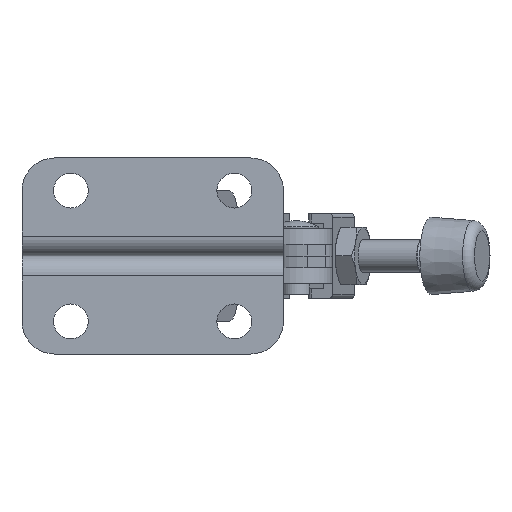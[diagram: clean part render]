
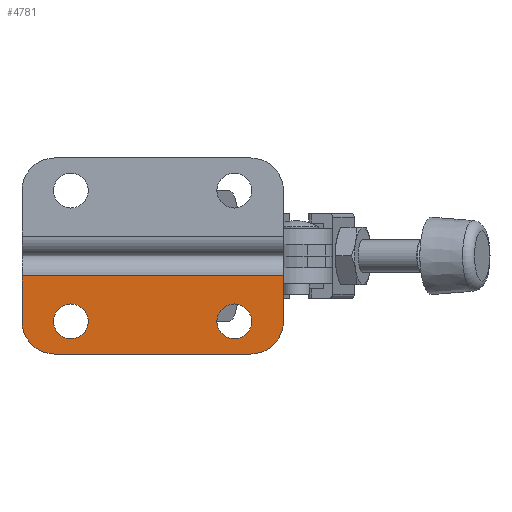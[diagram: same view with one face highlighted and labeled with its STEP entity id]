
A CAD part, front view. The second image highlights one B-rep face of the part: STEP entity #4781.
In plain terms, the highlighted planar face has unit normal (0, -1, 0).
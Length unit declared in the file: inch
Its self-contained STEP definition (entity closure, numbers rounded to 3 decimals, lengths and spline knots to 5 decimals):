
#243=PLANE('',#5238);
#441=LINE('',#7647,#751);
#454=LINE('',#7690,#764);
#455=LINE('',#7691,#765);
#456=LINE('',#7692,#766);
#751=VECTOR('',#6167,1.99954);
#764=VECTOR('',#6206,0.3473);
#765=VECTOR('',#6207,1.49954);
#766=VECTOR('',#6208,0.3473);
#999=FACE_BOUND('',#1539,.T.);
#1000=FACE_BOUND('',#1540,.T.);
#1179=FACE_OUTER_BOUND('',#1538,.T.);
#1538=EDGE_LOOP('',(#3699,#3700,#3701,#3702,#3703,#3704));
#1539=EDGE_LOOP('',(#3705));
#1540=EDGE_LOOP('',(#3706));
#1911=CIRCLE('',#5210,0.25);
#1914=CIRCLE('',#5214,0.25);
#1916=CIRCLE('',#5217,0.133);
#1918=CIRCLE('',#5220,0.133);
#2250=VERTEX_POINT('',#7606);
#2251=VERTEX_POINT('',#7607);
#2256=VERTEX_POINT('',#7618);
#2257=VERTEX_POINT('',#7620);
#2259=VERTEX_POINT('',#7626);
#2261=VERTEX_POINT('',#7631);
#2267=VERTEX_POINT('',#7644);
#2268=VERTEX_POINT('',#7646);
#2777=EDGE_CURVE('',#2250,#2251,#1911,.T.);
#2783=EDGE_CURVE('',#2256,#2257,#1914,.T.);
#2786=EDGE_CURVE('',#2259,#2259,#1916,.T.);
#2788=EDGE_CURVE('',#2261,#2261,#1918,.T.);
#2794=EDGE_CURVE('',#2267,#2268,#441,.T.);
#2816=EDGE_CURVE('',#2267,#2251,#454,.T.);
#2817=EDGE_CURVE('',#2250,#2257,#455,.T.);
#2818=EDGE_CURVE('',#2256,#2268,#456,.T.);
#3699=ORIENTED_EDGE('',*,*,#2794,.F.);
#3700=ORIENTED_EDGE('',*,*,#2816,.T.);
#3701=ORIENTED_EDGE('',*,*,#2777,.F.);
#3702=ORIENTED_EDGE('',*,*,#2817,.T.);
#3703=ORIENTED_EDGE('',*,*,#2783,.F.);
#3704=ORIENTED_EDGE('',*,*,#2818,.T.);
#3705=ORIENTED_EDGE('',*,*,#2786,.T.);
#3706=ORIENTED_EDGE('',*,*,#2788,.T.);
#4781=ADVANCED_FACE('',(#1179,#999,#1000),#243,.T.);
#5210=AXIS2_PLACEMENT_3D('',#7608,#6129,#6130);
#5214=AXIS2_PLACEMENT_3D('',#7621,#6140,#6141);
#5217=AXIS2_PLACEMENT_3D('',#7627,#6147,#6148);
#5220=AXIS2_PLACEMENT_3D('',#7632,#6153,#6154);
#5238=AXIS2_PLACEMENT_3D('',#7689,#6204,#6205);
#6129=DIRECTION('center_axis',(0.,1.,0.));
#6130=DIRECTION('ref_axis',(-0.707,0.,-0.707));
#6140=DIRECTION('center_axis',(0.,1.,0.));
#6141=DIRECTION('ref_axis',(0.707,0.,-0.707));
#6147=DIRECTION('center_axis',(0.,1.,0.));
#6148=DIRECTION('ref_axis',(0.,0.,
1.));
#6153=DIRECTION('center_axis',(0.,1.,0.));
#6154=DIRECTION('ref_axis',(0.,0.,
1.));
#6167=DIRECTION('',(1.,0.,0.));
#6204=DIRECTION('center_axis',(0.,-1.,0.));
#6205=DIRECTION('ref_axis',(1.,0.,0.));
#6206=DIRECTION('',(0.,0.,-1.));
#6207=DIRECTION('',(1.,0.,0.));
#6208=DIRECTION('',(0.,0.,1.));
#7606=CARTESIAN_POINT('',(16.53476,7.66276,-1.33286));
#7607=CARTESIAN_POINT('',(16.28476,7.66276,-1.08286));
#7608=CARTESIAN_POINT('Origin',(16.53476,7.66276,-1.08286));
#7618=CARTESIAN_POINT('',(18.2843,7.66276,-1.08286));
#7620=CARTESIAN_POINT('',(18.0343,7.66276,-1.33286));
#7621=CARTESIAN_POINT('Origin',(18.0343,7.66276,-1.08286));
#7626=CARTESIAN_POINT('',(16.65858,7.66276,-1.21586));
#7627=CARTESIAN_POINT('Origin',(16.65858,7.66276,-1.08286));
#7631=CARTESIAN_POINT('',(17.90858,7.66276,-1.21586));
#7632=CARTESIAN_POINT('Origin',(17.90858,7.66276,-1.08286));
#7644=CARTESIAN_POINT('',(16.28476,7.66276,-0.73556));
#7646=CARTESIAN_POINT('',(18.2843,7.66276,-0.73556));
#7647=CARTESIAN_POINT('',(16.28476,7.66276,-0.73556));
#7689=CARTESIAN_POINT('Origin',(16.15828,7.66276,-1.33286));
#7690=CARTESIAN_POINT('',(16.28476,7.66276,-0.73556));
#7691=CARTESIAN_POINT('',(16.53476,7.66276,-1.33286));
#7692=CARTESIAN_POINT('',(18.2843,7.66276,-1.08286));
